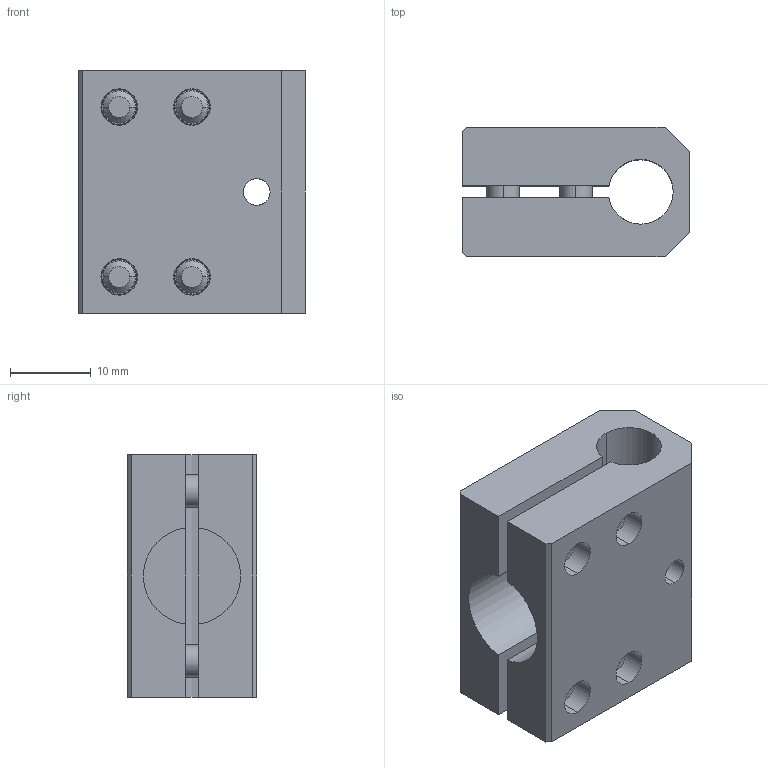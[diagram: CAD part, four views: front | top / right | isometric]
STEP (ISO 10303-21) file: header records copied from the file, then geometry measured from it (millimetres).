
FILE_DESCRIPTION (( 'STEP AP214' ), '1' );
FILE_NAME ('SMBF1-0812T.STEP', '2022-12-28T01:30:30', ( 'Windows User' ), ( 'P R C' ), 'SwSTEP 2.0', 'SolidWorks 2018', '' );
FILE_SCHEMA (( 'AUTOMOTIVE_DESIGN' ));
Length unit declared in the file: millimetre
Products named in the file (1): SMBF1-0812T
Bounding box: 28 x 16 x 30 mm (x, y, z)
Volume: 8770.2 mm3; surface area: 7532.2 mm2
Topology: 9 solids, 9 shells, 908 faces, 2622 edges, 1734 vertices
Faces by surface type: plane 827, cylinder 65, cone 8, bspline 8
Entity records: 40676 total; most frequent: CARTESIAN_POINT 5871, DIRECTION 5280, ORIENTED_EDGE 5244, EDGE_CURVE 2622, AXIS2_PLACEMENT_3D 1779, VERTEX_POINT 1734, LINE 1722, VECTOR 1722
